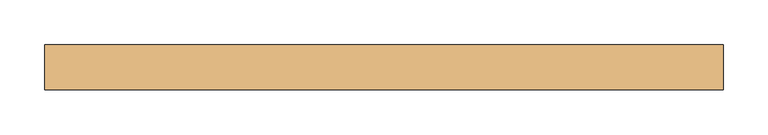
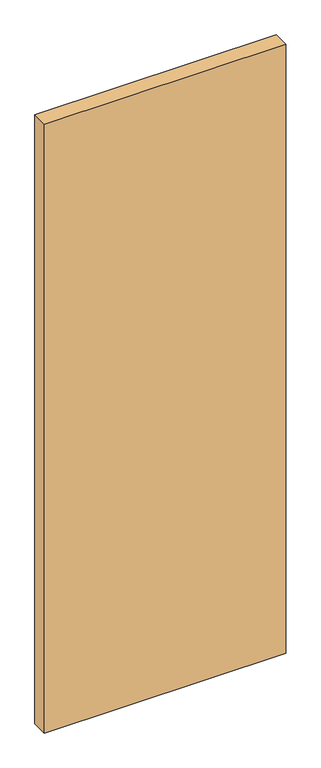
"""IFC4 building model written with IfcOpenShell, lengths in millimetres: door geometry."""

import ifcopenshell
import ifcopenshell.guid

model = None  # the IFC model being written
_history = None  # IfcOwnerHistory: only IFC2X3 demands one
_inside = {}  # id of a spatial element -> (the spatial element, [elements in it])
_under = {}  # id of a project, library or spatial element -> (it, [spatial elements below it])
_declared = {}  # id of a project -> (the project, [libraries it declares])
_typed = {}  # id of a type object -> (the type object, [elements of that type])
_made_of = {}  # id of a material, layer set ... -> (it, [elements and type objects made of it])


def new_model(schema):
    """Start an empty IFC model of exactly this schema.

    Asked for "IFC4X3", IfcOpenShell would pick the latest addendum, in which some entities
    have other attributes; the version numbers below select the first issue.
    IFC2X3 requires an IfcOwnerHistory on every rooted entity: one is made here for all.
    """
    global model, _history
    if schema == "IFC4X3":
        model = ifcopenshell.file(schema_version=(4, 3, 0, 0))
    else:
        model = ifcopenshell.file(schema=schema)
    _inside.clear()
    _under.clear()
    _declared.clear()
    _typed.clear()
    _made_of.clear()
    _history = None
    if model.schema == "IFC2X3":
        org = make("IfcOrganization", Name="unknown")
        user = make(
            "IfcPersonAndOrganization",
            ThePerson=make("IfcPerson", FamilyName="unknown"),
            TheOrganization=org,
        )
        app = make(
            "IfcApplication",
            ApplicationDeveloper=org,
            Version="unknown",
            ApplicationFullName="unknown",
            ApplicationIdentifier="unknown",
        )
        _history = make(
            "IfcOwnerHistory",
            OwningUser=user,
            OwningApplication=app,
            ChangeAction="ADDED",
            CreationDate=0,
        )
    return model


def make(cls, **values):
    """One entity of the class cls with the attributes given. An attribute that is None is left unset."""
    return model.create_entity(
        cls, **{name: value for name, value in values.items() if value is not None}
    )


def rooted(cls, **values):
    """An entity with a GlobalId (a new one), such as an element, a storey or a relation."""
    return make(cls, GlobalId=ifcopenshell.guid.new(), OwnerHistory=_history, **values)


def si_unit(unit_type, name, prefix=None):
    """IfcSIUnit, for example si_unit("LENGTHUNIT", "METRE", prefix="MILLI")."""
    return make("IfcSIUnit", UnitType=unit_type, Prefix=prefix, Name=name)


def assignment(units):
    """IfcUnitAssignment: the units of a project."""
    return None if units is None else make("IfcUnitAssignment", Units=units)


def point(xyz):
    """IfcCartesianPoint."""
    return None if xyz is None else make("IfcCartesianPoint", Coordinates=xyz)


def direction(xyz):
    """IfcDirection."""
    return None if xyz is None else make("IfcDirection", DirectionRatios=xyz)


def frame(location, z_axis=None, x_axis=None):
    """IfcAxis2Placement3D, a coordinate frame: its origin and axes. An axis left out is left unset."""
    return make(
        "IfcAxis2Placement3D",
        Location=point(location),
        Axis=direction(z_axis),
        RefDirection=direction(x_axis),
    )


def origin():
    """The frame at (0, 0, 0) with its axes left unset."""
    return frame((0.0, 0.0, 0.0))


def origin_with_axes():
    """The frame at (0, 0, 0) with the z axis (0, 0, 1) and the x axis (1, 0, 0) written out."""
    return frame((0.0, 0.0, 0.0), z_axis=(0.0, 0.0, 1.0), x_axis=(1.0, 0.0, 0.0))


def place(relative_to, where):
    """IfcLocalPlacement: puts the frame where relative to a parent placement (None: the world)."""
    return make(
        "IfcLocalPlacement", PlacementRelTo=relative_to, RelativePlacement=where
    )


def context(
    kind, dimensions, precision=None, world=None, true_north=None, identifier=None
):
    """IfcGeometricRepresentationContext, for example the 3D "Model" context."""
    return make(
        "IfcGeometricRepresentationContext",
        ContextIdentifier=identifier,
        ContextType=kind,
        CoordinateSpaceDimension=dimensions,
        Precision=precision,
        WorldCoordinateSystem=world,
        TrueNorth=true_north,
    )


def project(units=None, contexts=None):
    """IfcProject with its units and contexts."""
    return rooted(
        "IfcProject",
        Name="project",
        RepresentationContexts=contexts,
        UnitsInContext=assignment(units),
    )


def spatial(cls, under=None, at=None, **own):
    """A site, building, storey or space (cls), placed at a placement, below another one or the project."""
    s = rooted(cls, ObjectPlacement=at, **own)
    if under is not None:
        _under.setdefault(under.id(), (under, []))[1].append(s)
    return s


def polyline(points):
    """IfcPolyline through the points."""
    return make("IfcPolyline", Points=[point(p) for p in points])


def outline(outer, holes=None, kind="AREA"):
    """IfcArbitraryClosedProfileDef: a profile drawn as a closed curve; with holes, ...WithVoids."""
    if holes is None:
        return make("IfcArbitraryClosedProfileDef", ProfileType=kind, OuterCurve=outer)
    return make(
        "IfcArbitraryProfileDefWithVoids",
        ProfileType=kind,
        OuterCurve=outer,
        InnerCurves=holes,
    )


def extrude(swept, where, along, depth):
    """IfcExtrudedAreaSolid: the profile swept, set in the frame where, extruded along a direction by depth."""
    return make(
        "IfcExtrudedAreaSolid",
        SweptArea=swept,
        Position=where,
        ExtrudedDirection=direction(along),
        Depth=depth,
    )


def shape(context_of_items, identifier, shape_type, items):
    """IfcShapeRepresentation: the items that make up one representation, for example the "Body"."""
    return make(
        "IfcShapeRepresentation",
        ContextOfItems=context_of_items,
        RepresentationIdentifier=identifier,
        RepresentationType=shape_type,
        Items=items,
    )


def source(mapping_origin, context_of_items, identifier, shape_type, items):
    """IfcRepresentationMap: a shape defined once, which mapped items show again and again."""
    return make(
        "IfcRepresentationMap",
        MappingOrigin=mapping_origin,
        MappedRepresentation=shape(context_of_items, identifier, shape_type, items),
    )


def transform(
    local_origin,
    x_axis=None,
    y_axis=None,
    z_axis=None,
    scale=None,
    scale2=None,
    scale3=None,
    uniform=True,
):
    """IfcCartesianTransformationOperator3D, or its non-uniform kind. x_axis, y_axis, z_axis: its Axis1, 2, 3."""
    if uniform:
        return make(
            "IfcCartesianTransformationOperator3D",
            Axis1=direction(x_axis),
            Axis2=direction(y_axis),
            LocalOrigin=point(local_origin),
            Scale=scale,
            Axis3=direction(z_axis),
        )
    return make(
        "IfcCartesianTransformationOperator3DnonUniform",
        Axis1=direction(x_axis),
        Axis2=direction(y_axis),
        LocalOrigin=point(local_origin),
        Scale=scale,
        Axis3=direction(z_axis),
        Scale2=scale2,
        Scale3=scale3,
    )


def mapped(mapping_source, mapping_target):
    """IfcMappedItem: shows the shape of a source again, moved by a transform."""
    return make(
        "IfcMappedItem", MappingSource=mapping_source, MappingTarget=mapping_target
    )


def made_of(thing, what):
    """Note that an element or type object is made of a material, layer set ...; save() writes the relation."""
    if what is not None:
        _made_of.setdefault(what.id(), (what, []))[1].append(thing)
    return thing


def element(
    cls,
    number,
    at=None,
    inside=None,
    cuts=None,
    type_object=None,
    material=None,
    context=None,
    identifier="Body",
    shape_type=None,
    held_by="IfcProductDefinitionShape",
    body=None,
    shapes=None,
    **own,
):
    """One element of the class cls, such as IfcWall. Its Tag is "e" and its number.

    at: its placement. inside: the storey or other place that contains it. cuts: it is an
    opening in that element (IfcRelVoidsElement). A single representation is given by context,
    identifier, shape_type and body (its items); several are given by shapes. held_by: the class
    of the entity that holds the representations. save() writes the other relations.
    """
    e = rooted(cls, Tag="e%d" % number, ObjectPlacement=at, **own)
    if body is not None:
        shapes = [shape(context, identifier, shape_type, body)]
    if shapes is not None:
        e.Representation = make(held_by, Representations=shapes)
    if inside is not None:
        _inside.setdefault(inside.id(), (inside, []))[1].append(e)
    if cuts is not None:
        rooted(
            "IfcRelVoidsElement", RelatingBuildingElement=cuts, RelatedOpeningElement=e
        )
    if type_object is not None:
        _typed.setdefault(type_object.id(), (type_object, []))[1].append(e)
    return made_of(e, material)


def aggregate(whole, parts):
    """IfcRelAggregates: a whole, such as a stair, and the parts it consists of."""
    return rooted("IfcRelAggregates", RelatingObject=whole, RelatedObjects=parts)


def save(model, path):
    """Write the relations noted so far, then the file.

    IfcRelAggregates (storeys below a building ...), IfcRelContainedInSpatialStructure (elements
    in a storey), IfcRelDefinesByType, IfcRelAssociatesMaterial and IfcRelDeclares: one each for
    every whole, place, type object, material and project.
    """
    for whole, parts in _under.values():
        aggregate(whole, parts)
    for where, things in _inside.values():
        rooted(
            "IfcRelContainedInSpatialStructure",
            RelatedElements=things,
            RelatingStructure=where,
        )
    for kind, things in _typed.values():
        rooted("IfcRelDefinesByType", RelatedObjects=things, RelatingType=kind)
    for what, things in _made_of.values():
        rooted("IfcRelAssociatesMaterial", RelatedObjects=things, RelatingMaterial=what)
    for by, libraries in _declared.values():
        rooted("IfcRelDeclares", RelatingContext=by, RelatedDefinitions=libraries)
    model.write(path)


def door_f61abd0f(model_context):
    return source(origin(), model_context, "Body", "SweptSolid", [
        extrude(outline(polyline([(381.0, -6.15), (381.0, -57.15), (-381.0, -57.15), (-381.0, -6.15), (381.0, -6.15)])), origin_with_axes(), (0.0, 0.0, 1.0), 2032.0),
    ])


if __name__ == "__main__":
    model = new_model("IFC4")
    model_context = context("Model", 3, world=origin())
    ifc_project = project(units=[si_unit("LENGTHUNIT", "METRE", prefix="MILLI")], contexts=[model_context])
    site = spatial("IfcSite", under=ifc_project)
    building = spatial("IfcBuilding", under=site)
    placement = place(None, origin())
    door_shape = door_f61abd0f(model_context)
    element("IfcDoor", 1, ObjectType="Planitar - Single Door_Flush Panel : 2'-6\" x 6'-8\" @45", at=placement, inside=building, context=model_context, shape_type="MappedRepresentation", body=[
        mapped(door_shape, transform((0.0, 0.0, 0.0), x_axis=(1.0, 0.0, 0.0), y_axis=(0.0, 1.0, 0.0), z_axis=(0.0, 0.0, 1.0))),
    ])
    save(model, "model.ifc")
